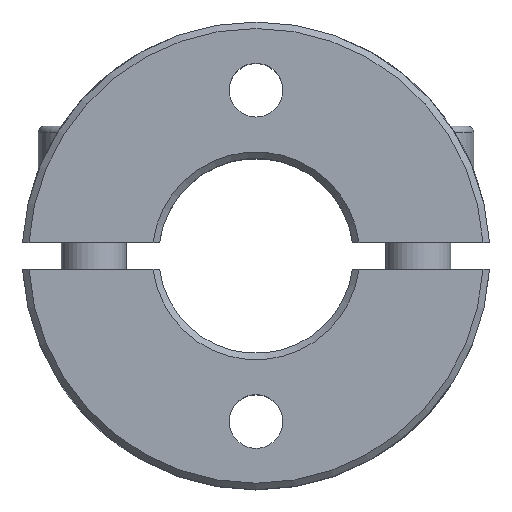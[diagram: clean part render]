
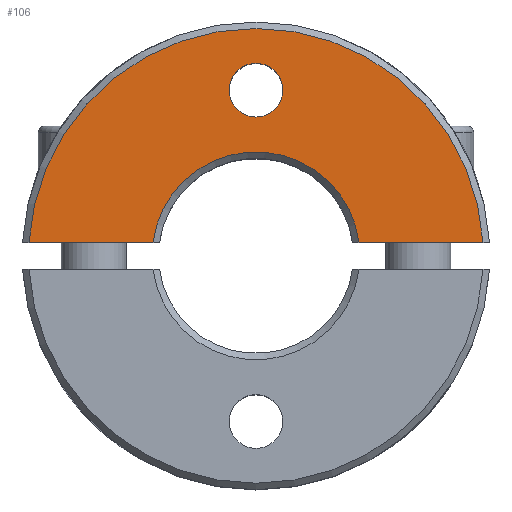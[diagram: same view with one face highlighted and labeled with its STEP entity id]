
A CAD part, top view. The second image highlights one B-rep face of the part: STEP entity #106.
In plain terms, the highlighted planar face has unit normal (0, 0, 1).
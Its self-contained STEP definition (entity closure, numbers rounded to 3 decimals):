
#106 = ADVANCED_FACE( '', ( #215, #216 ), #217, .T. );
#215 = FACE_OUTER_BOUND( '', #365, .T. );
#216 = FACE_BOUND( '', #366, .T. );
#217 = PLANE( '', #367 );
#365 = EDGE_LOOP( '', ( #638, #639, #640, #641 ) );
#366 = EDGE_LOOP( '', ( #642 ) );
#367 = AXIS2_PLACEMENT_3D( '', #643, #644, #645 );
#638 = ORIENTED_EDGE( '', *, *, #865, .F. );
#639 = ORIENTED_EDGE( '', *, *, #904, .T. );
#640 = ORIENTED_EDGE( '', *, *, #899, .F. );
#641 = ORIENTED_EDGE( '', *, *, #854, .F. );
#642 = ORIENTED_EDGE( '', *, *, #894, .T. );
#643 = CARTESIAN_POINT( '', ( 0., 8., 6.5 ) );
#644 = DIRECTION( '', ( 0., 0., 1. ) );
#645 = DIRECTION( '', ( 1., 0., 0. ) );
#854 = EDGE_CURVE( '', #988, #989, #990, .T. );
#865 = EDGE_CURVE( '', #1007, #988, #1009, .T. );
#894 = EDGE_CURVE( '', #1059, #1059, #1060, .F. );
#899 = EDGE_CURVE( '', #989, #1068, #1069, .T. );
#904 = EDGE_CURVE( '', #1007, #1068, #1075, .T. );
#988 = VERTEX_POINT( '', #1404 );
#989 = VERTEX_POINT( '', #1405 );
#990 = CIRCLE( '', #1406, 8. );
#1007 = VERTEX_POINT( '', #1437 );
#1009 = LINE( '', #1442, #1443 );
#1059 = VERTEX_POINT( '', #1563 );
#1060 = CIRCLE( '', #1564, 2.067 );
#1068 = VERTEX_POINT( '', #1573 );
#1069 = LINE( '', #1574, #1575 );
#1075 = CIRCLE( '', #1586, 17.5 );
#1404 = CARTESIAN_POINT( '', ( 7.931, 1.05, 6.5 ) );
#1405 = CARTESIAN_POINT( '', ( -7.931, 1.05, 6.5 ) );
#1406 = AXIS2_PLACEMENT_3D( '', #1716, #1717, #1718 );
#1437 = CARTESIAN_POINT( '', ( 17.468, 1.05, 6.5 ) );
#1442 = CARTESIAN_POINT( '', ( 20., 1.05, 6.5 ) );
#1443 = VECTOR( '', #1730, 1000. );
#1563 = CARTESIAN_POINT( '', ( 2.067, 12.75, 6.5 ) );
#1564 = AXIS2_PLACEMENT_3D( '', #1774, #1775, #1776 );
#1573 = CARTESIAN_POINT( '', ( -17.468, 1.05, 6.5 ) );
#1574 = CARTESIAN_POINT( '', ( 0., 1.05, 6.5 ) );
#1575 = VECTOR( '', #1787, 1000. );
#1586 = AXIS2_PLACEMENT_3D( '', #1793, #1794, #1795 );
#1716 = CARTESIAN_POINT( '', ( 0., 0., 6.5 ) );
#1717 = DIRECTION( '', ( 0., 0., 1. ) );
#1718 = DIRECTION( '', ( 1., 0., 0. ) );
#1730 = DIRECTION( '', ( -1., 0., 0. ) );
#1774 = CARTESIAN_POINT( '', ( 0., 12.75, 6.5 ) );
#1775 = DIRECTION( '', ( 0., 0., 1. ) );
#1776 = DIRECTION( '', ( 1., 0., 0. ) );
#1787 = DIRECTION( '', ( -1., 0., 0. ) );
#1793 = CARTESIAN_POINT( '', ( 0., 0., 6.5 ) );
#1794 = DIRECTION( '', ( 0., 0., 1. ) );
#1795 = DIRECTION( '', ( 1., 0., 0. ) );
